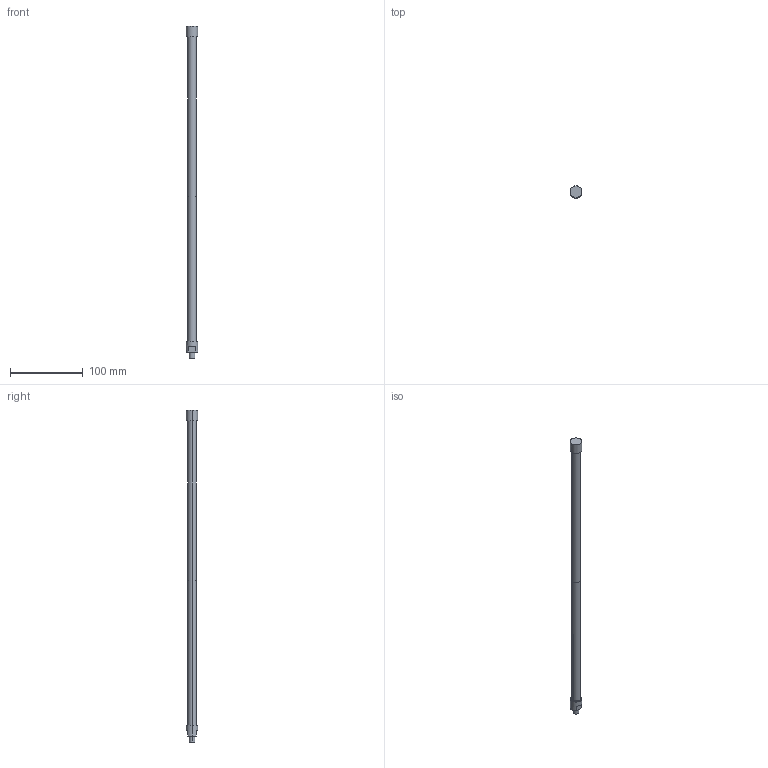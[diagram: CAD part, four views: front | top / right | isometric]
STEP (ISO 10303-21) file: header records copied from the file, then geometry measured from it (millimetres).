
FILE_DESCRIPTION(('STEP AP214'),'1');
FILE_NAME('C:/Users/Autocad/Desktop/L455-C270 MN.stp','2014-02-10T09:27:35',(' '),(' '),'Spatial InterOp 3D',' ',' ');
FILE_SCHEMA(('automotive_design'));
Length unit declared in the file: metre
Products named in the file (2): 1; 2
Bounding box: 16 x 16 x 455 mm (x, y, z)
Volume: 34319.4 mm3; surface area: 25364.5 mm2
Topology: 1 solids, 5 shells, 27 faces, 62 edges, 46 vertices
Faces by surface type: cylinder 14, plane 13
Entity records: 1056 total; most frequent: DIRECTION 158, CARTESIAN_POINT 137, ORIENTED_EDGE 112, AXIS2_PLACEMENT_3D 67, EDGE_CURVE 62, VERTEX_POINT 46, CIRCLE 38, EDGE_LOOP 32
